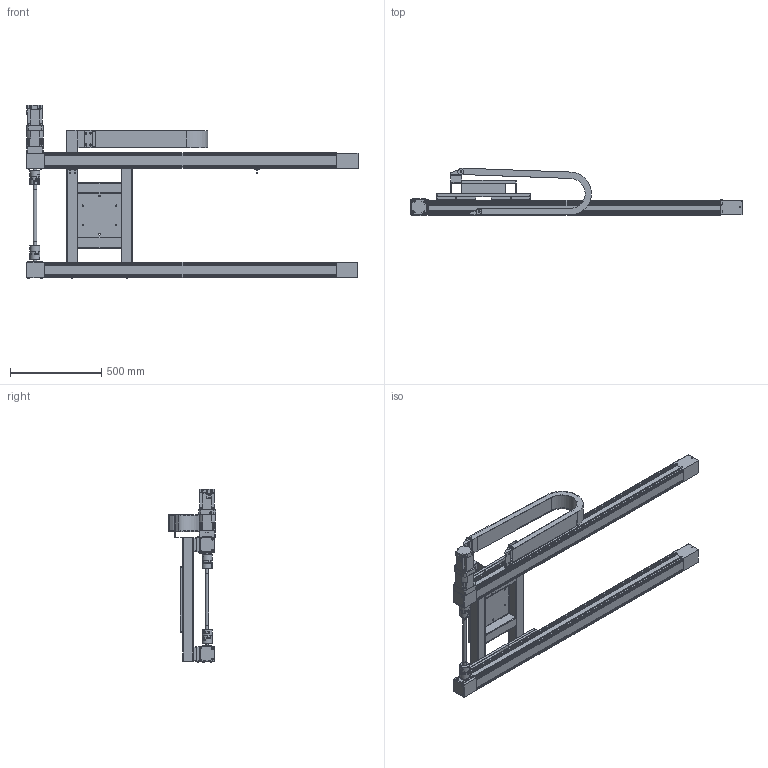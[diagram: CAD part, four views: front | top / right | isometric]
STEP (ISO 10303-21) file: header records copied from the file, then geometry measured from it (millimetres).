
FILE_DESCRIPTION(/* description */ (''),/* implementation_level */ '2;1');
FILE_NAME(/* name */ 'C:\Users\T18064\Desktop\Olympus\XYMK200-G1-1000-0-M-K-P129.stp',/* time_stamp */ '2024-05-16T16:31:56+08:00',/* author */ ('T18064'),/* organization */ (''),/* preprocessor_version */ 'ST-DEVELOPER v18',/* originating_system */ 'Autodesk Inventor 2020',/* authorisation */ '');
FILE_SCHEMA (('CONFIG_CONTROL_DESIGN'));
Products named in the file (28): XYMK200-G1-1000-0-M-K-P129; MK85-1000-LL-NR-N; _MK85-1300-L-M7B-C3-NL-5-A001(0)_body_1; _MK85-100-LL-M7B-C3-NL-5-A001(0)_body1; _MK85-1300-L-M7B-C3-NL-5-A001(0)_body3_1; _slider NR11; _slider NR21; ALS-055-R-18B-18B; MK110-連接軸桿; 零件134; 四方管; 四方管-短; 零件139; 2070.34pz+; MK85-1000-LTS-M7-C4-NL-10; _MK85-1300-L-M7B-C3-NL-5-A001(0)_body; _MK85-100-LT-M7B-C3-NL-5-A001(0)_body2; _moter-1-2; _M75-p1; _MK85-1300-L-M7B-C3-NL-5-A001(0)_body3; _MK85-1300-LT-M7B-C4-NL-5-A001(0)_body2-1; _slider NL11; _slider NL1-M; _Sensor_EE-SX672(NPN)-M-M; MK85-同動延伸軸-R; _slider NL21; 零件65; 零件65_1
Assembly tree (38 placements, depth 3):
  XYMK200-G1-1000-0-M-K-P129
    MK85-1000-LL-NR-N
      _MK85-1300-L-M7B-C3-NL-5-A001(0)_body_1
      _slider NR11  x2
      _MK85-100-LL-M7B-C3-NL-5-A001(0)_body1
      _MK85-1300-L-M7B-C3-NL-5-A001(0)_body3_1
      _slider NR21  x2
    ALS-055-R-18B-18B  x2
    MK110-連接軸桿
    零件134  x2
    四方管  x2
    四方管-短  x2
    零件139
    2070.34pz+  x2
    MK85-1000-LTS-M7-C4-NL-10
      _MK85-1300-L-M7B-C3-NL-5-A001(0)_body
      _slider NL11  x2
      _MK85-100-LT-M7B-C3-NL-5-A001(0)_body2
      _moter-1-2
      _M75-p1
      _MK85-1300-L-M7B-C3-NL-5-A001(0)_body3
      _MK85-1300-LT-M7B-C4-NL-5-A001(0)_body2-1
      _slider NL1-M
      _Sensor_EE-SX672(NPN)-M-M  x3
      MK85-同動延伸軸-R
      _slider NL21  x2
    零件65
    零件65_1
Bounding box: 1823.8 x 259.1 x 951.8 mm (x, y, z)
Volume: 32272598.1 mm3; surface area: 4454716.7 mm2
Topology: 36 solids, 36 shells, 3508 faces, 9516 edges, 6371 vertices
Faces by surface type: plane 1982, cylinder 992, cone 385, torus 145, sphere 4
Full cylindrical faces by diameter (mm): 1 x4, 2.48 x6, 3 x6, 3.242 x2, 3.4 x8, 4 x16, 4.134 x40, 5 x8, 5.1 x4, 5.5 x6, 6 x11, 6.4 x4, 6.8 x5, 7 x12, 7.8 x8, 8 x11, 8.376 x6, 8.5 x14, 8.9 x6, 9 x10, 9.5 x16, 9.6 x4, 10 x14, 10.22 x4, 11 x8, 14 x1, 18 x8, 20 x1, 22 x1, 24 x4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
Entity records: 85038 total; most frequent: CARTESIAN_POINT 15738, DIRECTION 14586, ORIENTED_EDGE 14094, EDGE_CURVE 7047, AXIS2_PLACEMENT_3D 5056, VERTEX_POINT 4743, LINE 4474, VECTOR 4474
